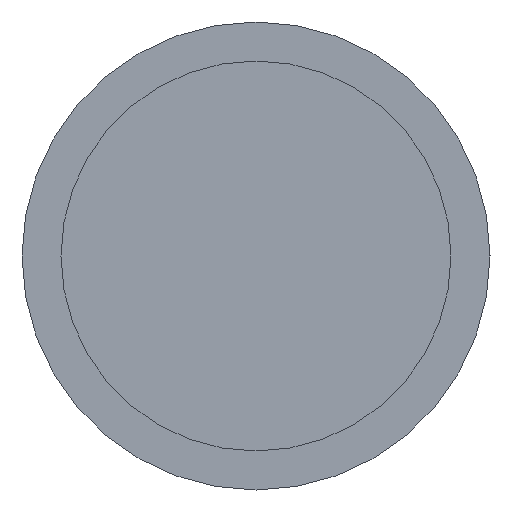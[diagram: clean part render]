
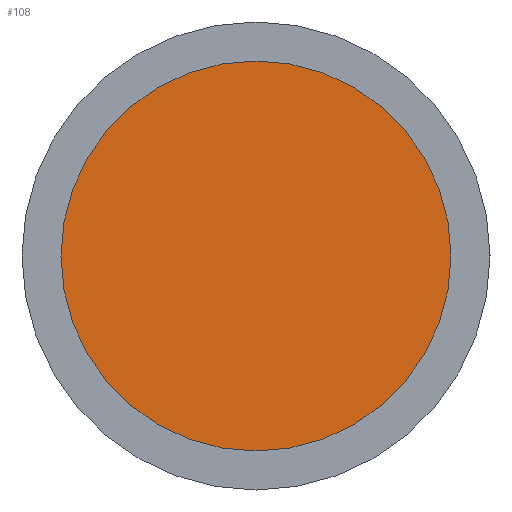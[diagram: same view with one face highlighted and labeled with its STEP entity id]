
A CAD part, left-side view. The second image highlights one B-rep face of the part: STEP entity #108.
In plain terms, the highlighted planar face has unit normal (-1, 0, 0).
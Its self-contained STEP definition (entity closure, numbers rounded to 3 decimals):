
#20=PLANE('',#143);
#26=FACE_OUTER_BOUND('',#35,.T.);
#35=EDGE_LOOP('',(#84));
#52=CIRCLE('',#141,2.5);
#60=VERTEX_POINT('',#200);
#69=EDGE_CURVE('',#60,#60,#52,.T.);
#84=ORIENTED_EDGE('',*,*,#69,.F.);
#108=ADVANCED_FACE('',(#26),#20,.F.);
#141=AXIS2_PLACEMENT_3D('',#202,#163,#164);
#143=AXIS2_PLACEMENT_3D('',#204,#167,#168);
#163=DIRECTION('center_axis',(1.,0.,0.));
#164=DIRECTION('ref_axis',(0.,1.,0.));
#167=DIRECTION('center_axis',(1.,0.,0.));
#168=DIRECTION('ref_axis',(0.,0.,-1.));
#200=CARTESIAN_POINT('',(0.,-2.5,0.));
#202=CARTESIAN_POINT('Origin',(0.,0.,0.));
#204=CARTESIAN_POINT('Origin',(0.,0.,0.));
